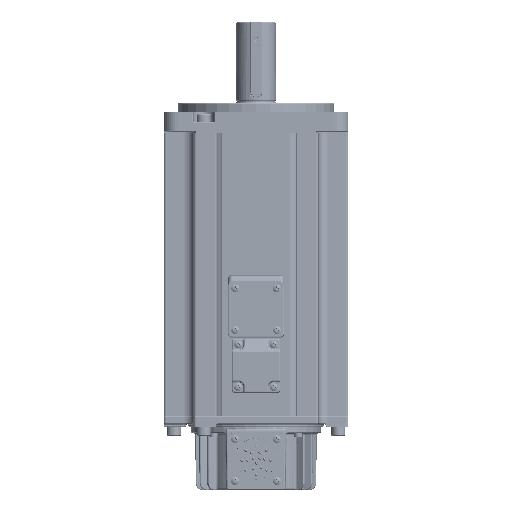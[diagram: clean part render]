
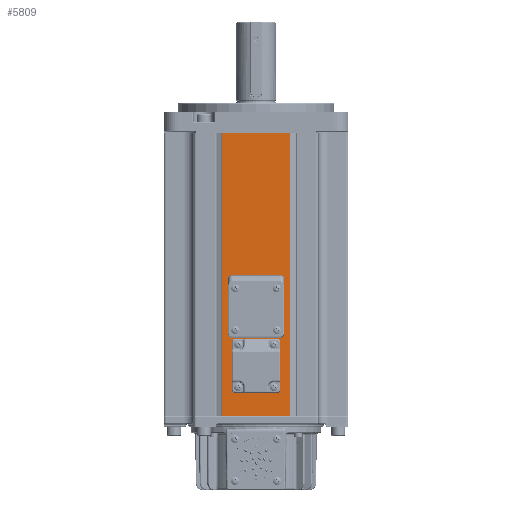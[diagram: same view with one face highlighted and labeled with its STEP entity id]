
A CAD part, front view. The second image highlights one B-rep face of the part: STEP entity #5809.
In plain terms, the highlighted planar face has unit normal (0, -1, 0).
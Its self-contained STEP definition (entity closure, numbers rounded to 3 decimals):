
#197=CARTESIAN_POINT('',(-12.5,-65.,-79.2));
#198=DIRECTION('',(0.,1.,0.));
#199=DIRECTION('',(0.,0.,-1.));
#200=AXIS2_PLACEMENT_3D('',#197,#198,#199);
#202=CARTESIAN_POINT('',(-12.5,-65.,-79.2));
#203=DIRECTION('',(0.,1.,0.));
#204=DIRECTION('',(0.,0.,1.));
#205=AXIS2_PLACEMENT_3D('',#202,#203,#204);
#207=CARTESIAN_POINT('',(-12.5,-65.,-49.2));
#208=DIRECTION('',(0.,1.,0.));
#209=DIRECTION('',(0.,0.,-1.));
#210=AXIS2_PLACEMENT_3D('',#207,#208,#209);
#212=CARTESIAN_POINT('',(-12.5,-65.,-49.2));
#213=DIRECTION('',(0.,1.,0.));
#214=DIRECTION('',(0.,0.,1.));
#215=AXIS2_PLACEMENT_3D('',#212,#213,#214);
#217=CARTESIAN_POINT('',(12.5,-65.,-49.2));
#218=DIRECTION('',(0.,1.,0.));
#219=DIRECTION('',(0.,0.,-1.));
#220=AXIS2_PLACEMENT_3D('',#217,#218,#219);
#222=CARTESIAN_POINT('',(12.5,-65.,-49.2));
#223=DIRECTION('',(0.,1.,0.));
#224=DIRECTION('',(0.,0.,1.));
#225=AXIS2_PLACEMENT_3D('',#222,#223,#224);
#227=CARTESIAN_POINT('',(-14.672,-65.,-39.172));
#228=DIRECTION('',(0.,1.,0.));
#229=DIRECTION('',(0.,0.,-1.));
#230=AXIS2_PLACEMENT_3D('',#227,#228,#229);
#232=CARTESIAN_POINT('',(-14.672,-65.,-39.172));
#233=DIRECTION('',(0.,1.,0.));
#234=DIRECTION('',(0.,0.,1.));
#235=AXIS2_PLACEMENT_3D('',#232,#233,#234);
#237=CARTESIAN_POINT('',(14.672,-65.,-39.172));
#238=DIRECTION('',(0.,1.,0.));
#239=DIRECTION('',(0.,0.,-1.));
#240=AXIS2_PLACEMENT_3D('',#237,#238,#239);
#242=CARTESIAN_POINT('',(14.672,-65.,-39.172));
#243=DIRECTION('',(0.,1.,0.));
#244=DIRECTION('',(0.,0.,1.));
#245=AXIS2_PLACEMENT_3D('',#242,#243,#244);
#247=CARTESIAN_POINT('',(14.672,-65.,-9.828));
#248=DIRECTION('',(0.,1.,0.));
#249=DIRECTION('',(0.,0.,-1.));
#250=AXIS2_PLACEMENT_3D('',#247,#248,#249);
#252=CARTESIAN_POINT('',(14.672,-65.,-9.828));
#253=DIRECTION('',(0.,1.,0.));
#254=DIRECTION('',(0.,0.,1.));
#255=AXIS2_PLACEMENT_3D('',#252,#253,#254);
#257=CARTESIAN_POINT('',(-14.672,-65.,-9.828));
#258=DIRECTION('',(0.,1.,0.));
#259=DIRECTION('',(0.,0.,-1.));
#260=AXIS2_PLACEMENT_3D('',#257,#258,#259);
#262=CARTESIAN_POINT('',(-14.672,-65.,-9.828));
#263=DIRECTION('',(0.,1.,0.));
#264=DIRECTION('',(0.,0.,1.));
#265=AXIS2_PLACEMENT_3D('',#262,#263,#264);
#267=CARTESIAN_POINT('',(0.,-65.,-57.2));
#268=DIRECTION('',(0.,1.,0.));
#269=DIRECTION('',(1.,0.,0.));
#270=AXIS2_PLACEMENT_3D('',#267,#268,#269);
#272=CARTESIAN_POINT('',(0.,-65.,-57.2));
#273=DIRECTION('',(0.,1.,0.));
#274=DIRECTION('',(-1.,0.,0.));
#275=AXIS2_PLACEMENT_3D('',#272,#273,#274);
#277=CARTESIAN_POINT('',(0.,-65.,-24.5));
#278=DIRECTION('',(0.,1.,0.));
#279=DIRECTION('',(1.,0.,0.));
#280=AXIS2_PLACEMENT_3D('',#277,#278,#279);
#282=CARTESIAN_POINT('',(0.,-65.,-24.5));
#283=DIRECTION('',(0.,1.,0.));
#284=DIRECTION('',(-1.,0.,0.));
#285=AXIS2_PLACEMENT_3D('',#282,#283,#284);
#287=DIRECTION('',(1.,0.,0.));
#288=VECTOR('',#287,47.823);
#289=CARTESIAN_POINT('',(-23.912,-65.,-99.5));
#290=LINE('',#289,#288);
#291=DIRECTION('',(0.,0.,-1.));
#292=VECTOR('',#291,199.);
#293=CARTESIAN_POINT('',(-23.912,-65.,99.5));
#294=LINE('',#293,#292);
#295=DIRECTION('',(-1.,0.,0.));
#296=VECTOR('',#295,47.823);
#297=CARTESIAN_POINT('',(23.912,-65.,99.5));
#298=LINE('',#297,#296);
#299=DIRECTION('',(0.,0.,1.));
#300=VECTOR('',#299,199.);
#301=CARTESIAN_POINT('',(23.912,-65.,-99.5));
#302=LINE('',#301,#300);
#303=CARTESIAN_POINT('',(0.,-65.,-8.5));
#304=DIRECTION('',(0.,1.,0.));
#305=DIRECTION('',(0.,0.,-1.));
#306=AXIS2_PLACEMENT_3D('',#303,#304,#305);
#308=CARTESIAN_POINT('',(0.,-65.,-8.5));
#309=DIRECTION('',(0.,1.,0.));
#310=DIRECTION('',(0.,0.,1.));
#311=AXIS2_PLACEMENT_3D('',#308,#309,#310);
#313=CARTESIAN_POINT('',(12.5,-65.,-79.2));
#314=DIRECTION('',(0.,1.,0.));
#315=DIRECTION('',(0.,0.,-1.));
#316=AXIS2_PLACEMENT_3D('',#313,#314,#315);
#318=CARTESIAN_POINT('',(12.5,-65.,-79.2));
#319=DIRECTION('',(0.,1.,0.));
#320=DIRECTION('',(0.,0.,1.));
#321=AXIS2_PLACEMENT_3D('',#318,#319,#320);
#4780=CARTESIAN_POINT('',(23.912,-65.,-99.5));
#4781=VERTEX_POINT('',#4780);
#4786=CARTESIAN_POINT('',(-23.912,-65.,-99.5));
#4787=VERTEX_POINT('',#4786);
#5160=CARTESIAN_POINT('',(23.912,-65.,99.5));
#5161=VERTEX_POINT('',#5160);
#5166=CARTESIAN_POINT('',(-23.912,-65.,99.5));
#5167=VERTEX_POINT('',#5166);
#5573=CARTESIAN_POINT('',(-11.,-65.,-24.5));
#5575=VERTEX_POINT('',#5573);
#5576=CARTESIAN_POINT('',(11.,-65.,-24.5));
#5577=VERTEX_POINT('',#5576);
#5583=CARTESIAN_POINT('',(-7.,-65.,-57.2));
#5585=VERTEX_POINT('',#5583);
#5587=CARTESIAN_POINT('',(7.,-65.,-57.2));
#5589=VERTEX_POINT('',#5587);
#5591=CARTESIAN_POINT('',(12.5,-65.,-80.45));
#5593=VERTEX_POINT('',#5591);
#5595=CARTESIAN_POINT('',(12.5,-65.,-77.95));
#5597=VERTEX_POINT('',#5595);
#5599=CARTESIAN_POINT('',(12.5,-65.,-50.45));
#5601=VERTEX_POINT('',#5599);
#5603=CARTESIAN_POINT('',(12.5,-65.,-47.95));
#5605=VERTEX_POINT('',#5603);
#5607=CARTESIAN_POINT('',(-14.672,-65.,-40.422));
#5609=VERTEX_POINT('',#5607);
#5611=CARTESIAN_POINT('',(-14.672,-65.,-37.922));
#5613=VERTEX_POINT('',#5611);
#5615=CARTESIAN_POINT('',(14.672,-65.,-40.422));
#5617=VERTEX_POINT('',#5615);
#5619=CARTESIAN_POINT('',(14.672,-65.,-37.922));
#5621=VERTEX_POINT('',#5619);
#5623=CARTESIAN_POINT('',(14.672,-65.,-11.078));
#5625=VERTEX_POINT('',#5623);
#5627=CARTESIAN_POINT('',(14.672,-65.,-8.578));
#5629=VERTEX_POINT('',#5627);
#5631=CARTESIAN_POINT('',(-14.672,-65.,-11.078));
#5633=VERTEX_POINT('',#5631);
#5635=CARTESIAN_POINT('',(-14.672,-65.,-8.578));
#5637=VERTEX_POINT('',#5635);
#5639=CARTESIAN_POINT('',(0.,-65.,-9.75));
#5641=VERTEX_POINT('',#5639);
#5643=CARTESIAN_POINT('',(0.,-65.,-7.25));
#5645=VERTEX_POINT('',#5643);
#5647=CARTESIAN_POINT('',(-12.5,-65.,-50.45));
#5649=VERTEX_POINT('',#5647);
#5651=CARTESIAN_POINT('',(-12.5,-65.,-47.95));
#5653=VERTEX_POINT('',#5651);
#5655=CARTESIAN_POINT('',(-12.5,-65.,-80.45));
#5657=VERTEX_POINT('',#5655);
#5659=CARTESIAN_POINT('',(-12.5,-65.,-77.95));
#5661=VERTEX_POINT('',#5659);
#5728=CARTESIAN_POINT('',(-43.912,-65.,300.));
#5729=DIRECTION('',(0.,1.,0.));
#5730=DIRECTION('',(-1.,0.,0.));
#5731=AXIS2_PLACEMENT_3D('',#5728,#5729,#5730);
#5732=PLANE('',#5731);
#5734=ORIENTED_EDGE('',*,*,#5733,.F.);
#5736=ORIENTED_EDGE('',*,*,#5735,.F.);
#5738=ORIENTED_EDGE('',*,*,#5737,.F.);
#5740=ORIENTED_EDGE('',*,*,#5739,.F.);
#5741=EDGE_LOOP('',(#5734,#5736,#5738,#5740));
#5742=FACE_OUTER_BOUND('',#5741,.F.);
#5744=ORIENTED_EDGE('',*,*,#5743,.F.);
#5746=ORIENTED_EDGE('',*,*,#5745,.F.);
#5747=EDGE_LOOP('',(#5744,#5746));
#5748=FACE_BOUND('',#5747,.F.);
#5750=ORIENTED_EDGE('',*,*,#5749,.F.);
#5752=ORIENTED_EDGE('',*,*,#5751,.F.);
#5753=EDGE_LOOP('',(#5750,#5752));
#5754=FACE_BOUND('',#5753,.F.);
#5756=ORIENTED_EDGE('',*,*,#5755,.F.);
#5758=ORIENTED_EDGE('',*,*,#5757,.F.);
#5759=EDGE_LOOP('',(#5756,#5758));
#5760=FACE_BOUND('',#5759,.F.);
#5762=ORIENTED_EDGE('',*,*,#5761,.F.);
#5764=ORIENTED_EDGE('',*,*,#5763,.F.);
#5765=EDGE_LOOP('',(#5762,#5764));
#5766=FACE_BOUND('',#5765,.F.);
#5768=ORIENTED_EDGE('',*,*,#5767,.F.);
#5770=ORIENTED_EDGE('',*,*,#5769,.F.);
#5771=EDGE_LOOP('',(#5768,#5770));
#5772=FACE_BOUND('',#5771,.F.);
#5774=ORIENTED_EDGE('',*,*,#5773,.F.);
#5776=ORIENTED_EDGE('',*,*,#5775,.F.);
#5777=EDGE_LOOP('',(#5774,#5776));
#5778=FACE_BOUND('',#5777,.F.);
#5780=ORIENTED_EDGE('',*,*,#5779,.F.);
#5782=ORIENTED_EDGE('',*,*,#5781,.F.);
#5783=EDGE_LOOP('',(#5780,#5782));
#5784=FACE_BOUND('',#5783,.F.);
#5786=ORIENTED_EDGE('',*,*,#5785,.F.);
#5788=ORIENTED_EDGE('',*,*,#5787,.F.);
#5789=EDGE_LOOP('',(#5786,#5788));
#5790=FACE_BOUND('',#5789,.F.);
#5792=ORIENTED_EDGE('',*,*,#5791,.F.);
#5794=ORIENTED_EDGE('',*,*,#5793,.F.);
#5795=EDGE_LOOP('',(#5792,#5794));
#5796=FACE_BOUND('',#5795,.F.);
#5798=ORIENTED_EDGE('',*,*,#5797,.F.);
#5800=ORIENTED_EDGE('',*,*,#5799,.F.);
#5801=EDGE_LOOP('',(#5798,#5800));
#5802=FACE_BOUND('',#5801,.F.);
#5804=ORIENTED_EDGE('',*,*,#5803,.F.);
#5806=ORIENTED_EDGE('',*,*,#5805,.F.);
#5807=EDGE_LOOP('',(#5804,#5806));
#5808=FACE_BOUND('',#5807,.F.);
#5809=ADVANCED_FACE('',(#5742,#5748,#5754,#5760,#5766,#5772,#5778,#5784,#5790,
#5796,#5802,#5808),#5732,.F.);
#201=CIRCLE('',#200,1.25);
#206=CIRCLE('',#205,1.25);
#211=CIRCLE('',#210,1.25);
#216=CIRCLE('',#215,1.25);
#221=CIRCLE('',#220,1.25);
#226=CIRCLE('',#225,1.25);
#231=CIRCLE('',#230,1.25);
#236=CIRCLE('',#235,1.25);
#241=CIRCLE('',#240,1.25);
#246=CIRCLE('',#245,1.25);
#251=CIRCLE('',#250,1.25);
#256=CIRCLE('',#255,1.25);
#261=CIRCLE('',#260,1.25);
#266=CIRCLE('',#265,1.25);
#271=CIRCLE('',#270,7.);
#276=CIRCLE('',#275,7.);
#281=CIRCLE('',#280,11.);
#286=CIRCLE('',#285,11.);
#307=CIRCLE('',#306,1.25);
#312=CIRCLE('',#311,1.25);
#317=CIRCLE('',#316,1.25);
#322=CIRCLE('',#321,1.25);
#5733=EDGE_CURVE('',#4787,#4781,#290,.T.);
#5735=EDGE_CURVE('',#5167,#4787,#294,.T.);
#5737=EDGE_CURVE('',#5161,#5167,#298,.T.);
#5739=EDGE_CURVE('',#4781,#5161,#302,.T.);
#5743=EDGE_CURVE('',#5657,#5661,#201,.T.);
#5745=EDGE_CURVE('',#5661,#5657,#206,.T.);
#5749=EDGE_CURVE('',#5649,#5653,#211,.T.);
#5751=EDGE_CURVE('',#5653,#5649,#216,.T.);
#5755=EDGE_CURVE('',#5601,#5605,#221,.T.);
#5757=EDGE_CURVE('',#5605,#5601,#226,.T.);
#5761=EDGE_CURVE('',#5609,#5613,#231,.T.);
#5763=EDGE_CURVE('',#5613,#5609,#236,.T.);
#5767=EDGE_CURVE('',#5617,#5621,#241,.T.);
#5769=EDGE_CURVE('',#5621,#5617,#246,.T.);
#5773=EDGE_CURVE('',#5625,#5629,#251,.T.);
#5775=EDGE_CURVE('',#5629,#5625,#256,.T.);
#5779=EDGE_CURVE('',#5633,#5637,#261,.T.);
#5781=EDGE_CURVE('',#5637,#5633,#266,.T.);
#5785=EDGE_CURVE('',#5589,#5585,#271,.T.);
#5787=EDGE_CURVE('',#5585,#5589,#276,.T.);
#5791=EDGE_CURVE('',#5577,#5575,#281,.T.);
#5793=EDGE_CURVE('',#5575,#5577,#286,.T.);
#5797=EDGE_CURVE('',#5641,#5645,#307,.T.);
#5799=EDGE_CURVE('',#5645,#5641,#312,.T.);
#5803=EDGE_CURVE('',#5593,#5597,#317,.T.);
#5805=EDGE_CURVE('',#5597,#5593,#322,.T.);
